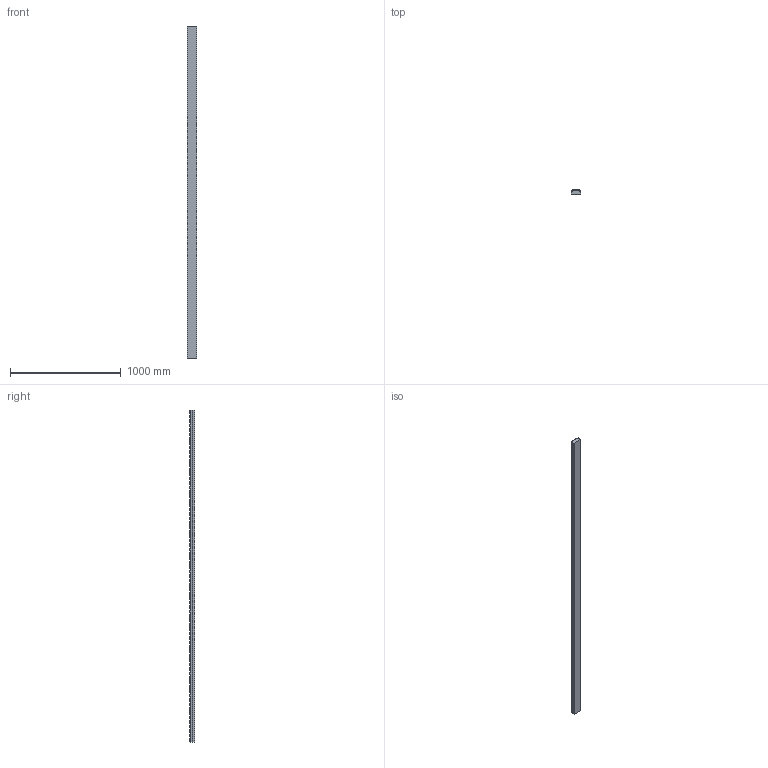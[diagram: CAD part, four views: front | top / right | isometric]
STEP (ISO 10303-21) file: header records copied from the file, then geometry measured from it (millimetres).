
FILE_DESCRIPTION (( 'STEP AP214' ), '1' );
FILE_NAME ('JB-59030.step', '2023-12-26T01:22:13', ( 'catia' ), ( 'HP Inc.' ), 'SwSTEP 2.0', 'SolidWorks 2021', '' );
FILE_SCHEMA (( 'AUTOMOTIVE_DESIGN' ));
Length unit declared in the file: millimetre
Products named in the file (1): JB-59030
Bounding box: 88 x 47.94 x 3000 mm (x, y, z)
Volume: 10804462.6 mm3; surface area: 914767.8 mm2
Topology: 1 solids, 1 shells, 237 faces, 480 edges, 320 vertices
Faces by surface type: plane 162, cylinder 75
Entity records: 6238 total; most frequent: DIRECTION 1106, CARTESIAN_POINT 1038, ORIENTED_EDGE 960, EDGE_CURVE 480, AXIS2_PLACEMENT_3D 388, VECTOR 330, LINE 330, VERTEX_POINT 320
